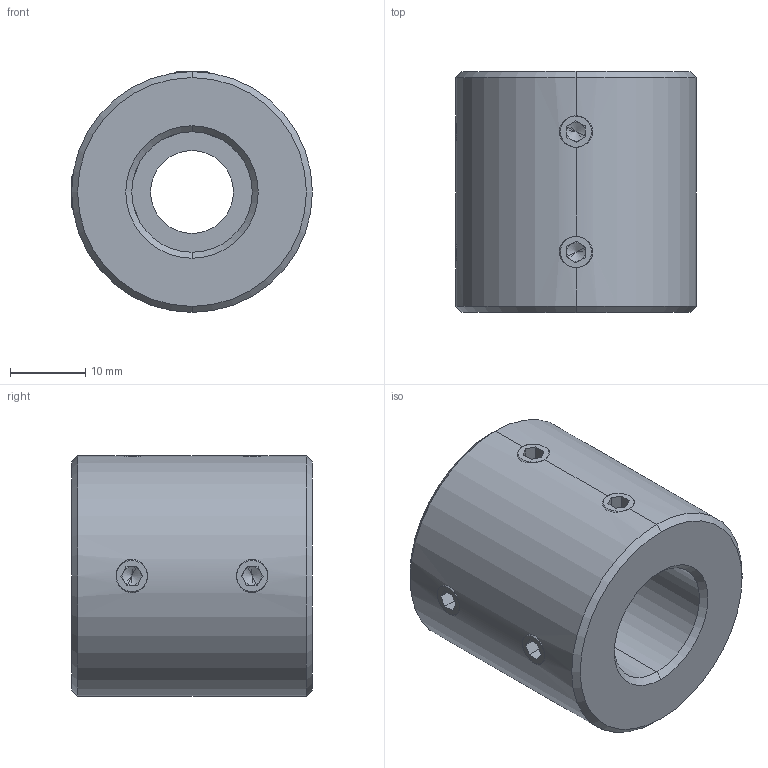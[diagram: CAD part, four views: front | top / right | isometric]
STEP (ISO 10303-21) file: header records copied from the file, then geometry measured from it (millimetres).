
FILE_DESCRIPTION (( 'STEP AP214' ), '1' );
FILE_NAME ('LL-D-D32L32-11-16½¨Ä£.STEP', '2022-07-22T11:30:53', ( '' ), ( '' ), 'SwSTEP 2.0', 'SolidWorks 2022', '' );
FILE_SCHEMA (( 'AUTOMOTIVE_DESIGN' ));
Length unit declared in the file: millimetre
Products named in the file (1): LL-D-D32L32-11-16膘耀
Bounding box: 32 x 32 x 32 mm (x, y, z)
Volume: 20783.8 mm3; surface area: 6032.8 mm2
Topology: 1 solids, 1 shells, 113 faces, 286 edges, 176 vertices
Faces by surface type: plane 59, cone 32, cylinder 22
Entity records: 3756 total; most frequent: CARTESIAN_POINT 1046, DIRECTION 558, ORIENTED_EDGE 556, EDGE_CURVE 278, AXIS2_PLACEMENT_3D 206, VERTEX_POINT 176, LINE 146, VECTOR 146
